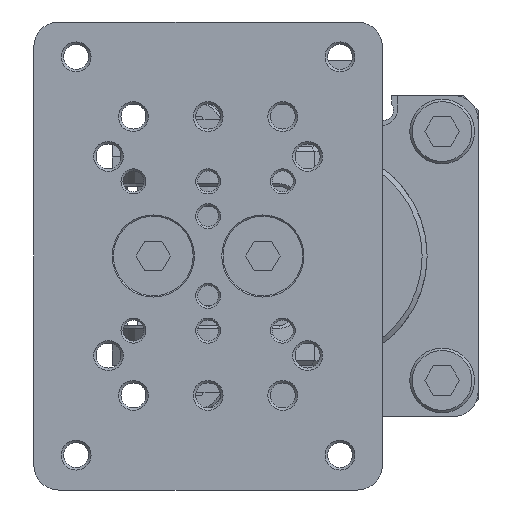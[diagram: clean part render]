
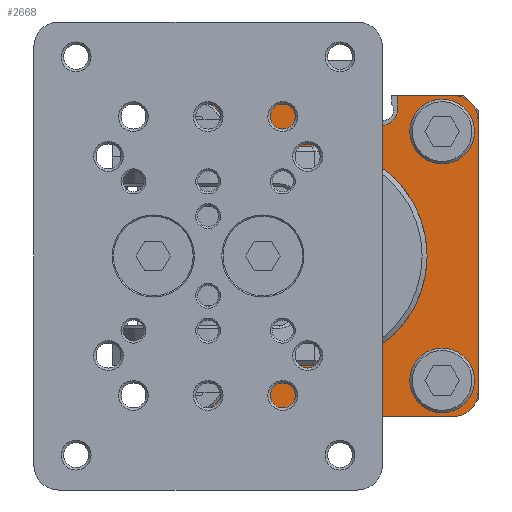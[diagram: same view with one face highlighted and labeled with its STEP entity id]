
A CAD part, front view. The second image highlights one B-rep face of the part: STEP entity #2668.
In plain terms, the highlighted planar face has unit normal (0, -1, 0).
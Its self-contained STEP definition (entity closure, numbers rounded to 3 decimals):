
#411=LINE('',#15766,#1130);
#412=LINE('',#15770,#1131);
#413=LINE('',#15774,#1132);
#414=LINE('',#15776,#1133);
#415=LINE('',#15780,#1134);
#416=LINE('',#15782,#1135);
#417=LINE('',#15784,#1136);
#418=LINE('',#15788,#1137);
#419=LINE('',#15790,#1138);
#420=LINE('',#15794,#1139);
#421=LINE('',#15806,#1140);
#422=LINE('',#15810,#1141);
#423=LINE('',#15814,#1142);
#1130=VECTOR('',#12760,1.);
#1131=VECTOR('',#12763,1.);
#1132=VECTOR('',#12766,1.);
#1133=VECTOR('',#12767,1.);
#1134=VECTOR('',#12770,1.);
#1135=VECTOR('',#12771,1.);
#1136=VECTOR('',#12772,1.);
#1137=VECTOR('',#12775,1.);
#1138=VECTOR('',#12776,1.);
#1139=VECTOR('',#12779,1.);
#1140=VECTOR('',#12790,1.);
#1141=VECTOR('',#12793,1.);
#1142=VECTOR('',#12796,1.);
#2668=ADVANCED_FACE('',(#3800,#3801,#3802,#3803,#3804,#3805),#3290,.F.);
#3290=PLANE('',#11191);
#3800=FACE_BOUND('',#4531,.T.);
#3801=FACE_BOUND('',#4532,.T.);
#3802=FACE_BOUND('',#4533,.T.);
#3803=FACE_BOUND('',#4534,.T.);
#3804=FACE_BOUND('',#4535,.T.);
#3805=FACE_BOUND('',#4536,.T.);
#4531=EDGE_LOOP('',(#5835,#5836,#5837,#5838,#5839,#5840,#5841,#5842,#5843,
#5844,#5845,#5846,#5847,#5848,#5849,#5850));
#4532=EDGE_LOOP('',(#5851));
#4533=EDGE_LOOP('',(#5852));
#4534=EDGE_LOOP('',(#5853));
#4535=EDGE_LOOP('',(#5854));
#4536=EDGE_LOOP('',(#5855,#5856,#5857,#5858,#5859,#5860));
#5835=ORIENTED_EDGE('',*,*,#9309,.T.);
#5836=ORIENTED_EDGE('',*,*,#9310,.F.);
#5837=ORIENTED_EDGE('',*,*,#9311,.T.);
#5838=ORIENTED_EDGE('',*,*,#9312,.F.);
#5839=ORIENTED_EDGE('',*,*,#9313,.T.);
#5840=ORIENTED_EDGE('',*,*,#9314,.F.);
#5841=ORIENTED_EDGE('',*,*,#9315,.T.);
#5842=ORIENTED_EDGE('',*,*,#9316,.F.);
#5843=ORIENTED_EDGE('',*,*,#9317,.F.);
#5844=ORIENTED_EDGE('',*,*,#9318,.F.);
#5845=ORIENTED_EDGE('',*,*,#9319,.T.);
#5846=ORIENTED_EDGE('',*,*,#9320,.F.);
#5847=ORIENTED_EDGE('',*,*,#9321,.F.);
#5848=ORIENTED_EDGE('',*,*,#9322,.F.);
#5849=ORIENTED_EDGE('',*,*,#9323,.T.);
#5850=ORIENTED_EDGE('',*,*,#9324,.F.);
#5851=ORIENTED_EDGE('',*,*,#9325,.T.);
#5852=ORIENTED_EDGE('',*,*,#9326,.T.);
#5853=ORIENTED_EDGE('',*,*,#9327,.T.);
#5854=ORIENTED_EDGE('',*,*,#9328,.T.);
#5855=ORIENTED_EDGE('',*,*,#9329,.T.);
#5856=ORIENTED_EDGE('',*,*,#9330,.T.);
#5857=ORIENTED_EDGE('',*,*,#9331,.F.);
#5858=ORIENTED_EDGE('',*,*,#9332,.F.);
#5859=ORIENTED_EDGE('',*,*,#9333,.T.);
#5860=ORIENTED_EDGE('',*,*,#9334,.F.);
#8269=VERTEX_POINT('',#15764);
#8270=VERTEX_POINT('',#15765);
#8271=VERTEX_POINT('',#15767);
#8272=VERTEX_POINT('',#15769);
#8273=VERTEX_POINT('',#15771);
#8274=VERTEX_POINT('',#15773);
#8275=VERTEX_POINT('',#15775);
#8276=VERTEX_POINT('',#15777);
#8277=VERTEX_POINT('',#15779);
#8278=VERTEX_POINT('',#15781);
#8279=VERTEX_POINT('',#15783);
#8280=VERTEX_POINT('',#15785);
#8281=VERTEX_POINT('',#15787);
#8282=VERTEX_POINT('',#15789);
#8283=VERTEX_POINT('',#15791);
#8284=VERTEX_POINT('',#15793);
#8285=VERTEX_POINT('',#15796);
#8286=VERTEX_POINT('',#15798);
#8287=VERTEX_POINT('',#15800);
#8288=VERTEX_POINT('',#15802);
#8289=VERTEX_POINT('',#15804);
#8290=VERTEX_POINT('',#15805);
#8291=VERTEX_POINT('',#15807);
#8292=VERTEX_POINT('',#15809);
#8293=VERTEX_POINT('',#15811);
#8294=VERTEX_POINT('',#15813);
#9309=EDGE_CURVE('',#8269,#8270,#10545,.T.);
#9310=EDGE_CURVE('',#8271,#8270,#411,.T.);
#9311=EDGE_CURVE('',#8271,#8272,#10546,.T.);
#9312=EDGE_CURVE('',#8273,#8272,#412,.T.);
#9313=EDGE_CURVE('',#8273,#8274,#10547,.T.);
#9314=EDGE_CURVE('',#8275,#8274,#413,.T.);
#9315=EDGE_CURVE('',#8275,#8276,#414,.T.);
#9316=EDGE_CURVE('',#8277,#8276,#10548,.T.);
#9317=EDGE_CURVE('',#8278,#8277,#415,.T.);
#9318=EDGE_CURVE('',#8279,#8278,#416,.T.);
#9319=EDGE_CURVE('',#8279,#8280,#417,.T.);
#9320=EDGE_CURVE('',#8281,#8280,#10549,.T.);
#9321=EDGE_CURVE('',#8282,#8281,#418,.T.);
#9322=EDGE_CURVE('',#8283,#8282,#419,.T.);
#9323=EDGE_CURVE('',#8283,#8284,#10550,.T.);
#9324=EDGE_CURVE('',#8269,#8284,#420,.T.);
#9325=EDGE_CURVE('',#8285,#8285,#10551,.T.);
#9326=EDGE_CURVE('',#8286,#8286,#10552,.T.);
#9327=EDGE_CURVE('',#8287,#8287,#10553,.T.);
#9328=EDGE_CURVE('',#8288,#8288,#10554,.T.);
#9329=EDGE_CURVE('',#8289,#8290,#10555,.T.);
#9330=EDGE_CURVE('',#8290,#8291,#421,.T.);
#9331=EDGE_CURVE('',#8292,#8291,#10556,.T.);
#9332=EDGE_CURVE('',#8293,#8292,#422,.T.);
#9333=EDGE_CURVE('',#8293,#8294,#10557,.T.);
#9334=EDGE_CURVE('',#8289,#8294,#423,.T.);
#10545=CIRCLE('',#11178,5.);
#10546=CIRCLE('',#11179,5.);
#10547=CIRCLE('',#11180,5.);
#10548=CIRCLE('',#11181,3.);
#10549=CIRCLE('',#11182,3.);
#10550=CIRCLE('',#11183,5.);
#10551=CIRCLE('',#11184,4.3);
#10552=CIRCLE('',#11185,4.3);
#10553=CIRCLE('',#11186,4.3);
#10554=CIRCLE('',#11187,4.3);
#10555=CIRCLE('',#11188,8.);
#10556=CIRCLE('',#11189,22.);
#10557=CIRCLE('',#11190,8.);
#11178=AXIS2_PLACEMENT_3D('',#15763,#12758,#12759);
#11179=AXIS2_PLACEMENT_3D('',#15768,#12761,#12762);
#11180=AXIS2_PLACEMENT_3D('',#15772,#12764,#12765);
#11181=AXIS2_PLACEMENT_3D('',#15778,#12768,#12769);
#11182=AXIS2_PLACEMENT_3D('',#15786,#12773,#12774);
#11183=AXIS2_PLACEMENT_3D('',#15792,#12777,#12778);
#11184=AXIS2_PLACEMENT_3D('',#15795,#12780,#12781);
#11185=AXIS2_PLACEMENT_3D('',#15797,#12782,#12783);
#11186=AXIS2_PLACEMENT_3D('',#15799,#12784,#12785);
#11187=AXIS2_PLACEMENT_3D('',#15801,#12786,#12787);
#11188=AXIS2_PLACEMENT_3D('',#15803,#12788,#12789);
#11189=AXIS2_PLACEMENT_3D('',#15808,#12791,#12792);
#11190=AXIS2_PLACEMENT_3D('',#15812,#12794,#12795);
#11191=AXIS2_PLACEMENT_3D('',#15815,#12797,#12798);
#12758=DIRECTION('',(0.,-1.,0.));
#12759=DIRECTION('',(-1.,0.,0.));
#12760=DIRECTION('',(-1.,0.,0.));
#12761=DIRECTION('',(0.,-1.,0.));
#12762=DIRECTION('',(0.,0.,-1.));
#12763=DIRECTION('',(0.,0.,-1.));
#12764=DIRECTION('',(0.,-1.,0.));
#12765=DIRECTION('',(1.,0.,0.));
#12766=DIRECTION('',(1.,0.,0.));
#12767=DIRECTION('',(0.,0.,-1.));
#12768=DIRECTION('',(0.,-1.,0.));
#12769=DIRECTION('',(-1.,0.,0.));
#12770=DIRECTION('',(0.,0.,-1.));
#12771=DIRECTION('',(1.,0.,0.));
#12772=DIRECTION('',(0.,0.,-1.));
#12773=DIRECTION('',(0.,-1.,0.));
#12774=DIRECTION('',(-1.,0.,0.));
#12775=DIRECTION('',(0.,0.,-1.));
#12776=DIRECTION('',(1.,0.,0.));
#12777=DIRECTION('',(0.,-1.,0.));
#12778=DIRECTION('',(0.,0.,1.));
#12779=DIRECTION('',(0.,0.,1.));
#12780=DIRECTION('',(0.,1.,0.));
#12781=DIRECTION('',(0.,0.,1.));
#12782=DIRECTION('',(0.,1.,0.));
#12783=DIRECTION('',(0.,0.,1.));
#12784=DIRECTION('',(0.,1.,0.));
#12785=DIRECTION('',(0.,0.,1.));
#12786=DIRECTION('',(0.,1.,0.));
#12787=DIRECTION('',(0.,0.,1.));
#12788=DIRECTION('',(0.,1.,0.));
#12789=DIRECTION('',(-1.,0.,0.));
#12790=DIRECTION('',(1.,0.,0.));
#12791=DIRECTION('',(0.,-1.,0.));
#12792=DIRECTION('',(0.,0.,-1.));
#12793=DIRECTION('',(1.,0.,0.));
#12794=DIRECTION('',(0.,1.,0.));
#12795=DIRECTION('',(0.,0.,-1.));
#12796=DIRECTION('',(0.,0.,-1.));
#12797=DIRECTION('',(0.,1.,0.));
#12798=DIRECTION('',(0.,0.,1.));
#15763=CARTESIAN_POINT('',(4.5,-11.,-66.5));
#15764=CARTESIAN_POINT('',(-0.5,-11.,-66.5));
#15765=CARTESIAN_POINT('',(4.5,-11.,-71.5));
#15766=CARTESIAN_POINT('',(59.,-11.,-71.5));
#15767=CARTESIAN_POINT('',(59.,-11.,-71.5));
#15768=CARTESIAN_POINT('',(59.,-11.,-66.5));
#15769=CARTESIAN_POINT('',(64.,-11.,-66.5));
#15770=CARTESIAN_POINT('',(64.,-11.,-12.));
#15771=CARTESIAN_POINT('',(64.,-11.,-12.));
#15772=CARTESIAN_POINT('',(59.,-11.,-12.));
#15773=CARTESIAN_POINT('',(59.,-11.,-7.));
#15774=CARTESIAN_POINT('',(47.75,-11.,-7.));
#15775=CARTESIAN_POINT('',(47.75,-11.,-7.));
#15776=CARTESIAN_POINT('',(47.75,-11.,-7.));
#15777=CARTESIAN_POINT('',(47.75,-11.,-10.));
#15778=CARTESIAN_POINT('',(44.75,-11.,-10.));
#15779=CARTESIAN_POINT('',(41.75,-11.,-10.));
#15780=CARTESIAN_POINT('',(41.75,-11.,-7.));
#15781=CARTESIAN_POINT('',(41.75,-11.,-7.));
#15782=CARTESIAN_POINT('',(21.75,-11.,-7.));
#15783=CARTESIAN_POINT('',(21.75,-11.,-7.));
#15784=CARTESIAN_POINT('',(21.75,-11.,-7.));
#15785=CARTESIAN_POINT('',(21.75,-11.,-10.));
#15786=CARTESIAN_POINT('',(18.75,-11.,-10.));
#15787=CARTESIAN_POINT('',(15.75,-11.,-10.));
#15788=CARTESIAN_POINT('',(15.75,-11.,-7.));
#15789=CARTESIAN_POINT('',(15.75,-11.,-7.));
#15790=CARTESIAN_POINT('',(4.5,-11.,-7.));
#15791=CARTESIAN_POINT('',(4.5,-11.,-7.));
#15792=CARTESIAN_POINT('',(4.5,-11.,-12.));
#15793=CARTESIAN_POINT('',(-0.5,-11.,-12.));
#15794=CARTESIAN_POINT('',(-0.5,-11.,-66.5));
#15795=CARTESIAN_POINT('',(6.75,-11.,-64.25));
#15796=CARTESIAN_POINT('',(6.75,-11.,-59.95));
#15797=CARTESIAN_POINT('',(56.75,-11.,-64.25));
#15798=CARTESIAN_POINT('',(56.75,-11.,-59.95));
#15799=CARTESIAN_POINT('',(56.75,-11.,-14.25));
#15800=CARTESIAN_POINT('',(56.75,-11.,-9.95));
#15801=CARTESIAN_POINT('',(6.75,-11.,-14.25));
#15802=CARTESIAN_POINT('',(6.75,-11.,-9.95));
#15803=CARTESIAN_POINT('',(22.5,-11.,-25.25));
#15804=CARTESIAN_POINT('',(14.5,-11.,-25.25));
#15805=CARTESIAN_POINT('',(22.5,-11.,-17.25));
#15806=CARTESIAN_POINT('',(22.5,-11.,-17.25));
#15807=CARTESIAN_POINT('',(31.75,-11.,-17.25));
#15808=CARTESIAN_POINT('',(31.75,-11.,-39.25));
#15809=CARTESIAN_POINT('',(31.75,-11.,-61.25));
#15810=CARTESIAN_POINT('',(22.5,-11.,-61.25));
#15811=CARTESIAN_POINT('',(22.5,-11.,-61.25));
#15812=CARTESIAN_POINT('',(22.5,-11.,-53.25));
#15813=CARTESIAN_POINT('',(14.5,-11.,-53.25));
#15814=CARTESIAN_POINT('',(14.5,-11.,-25.25));
#15815=CARTESIAN_POINT('',(31.75,-11.,-39.25));
